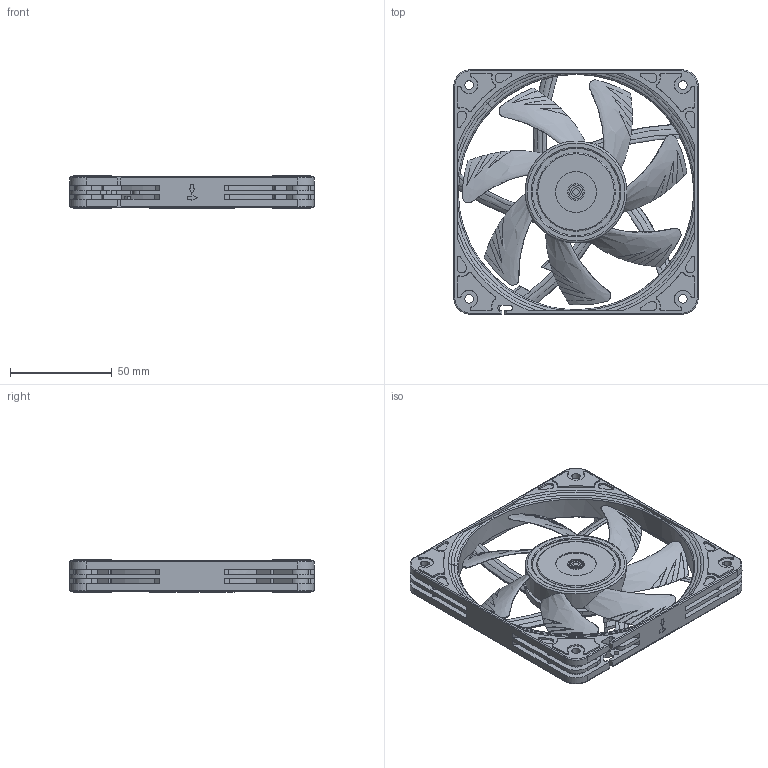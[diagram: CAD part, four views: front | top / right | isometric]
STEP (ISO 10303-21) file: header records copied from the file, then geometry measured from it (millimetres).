
FILE_DESCRIPTION(/* description */ ('140mm Desk Fan'),/* implementation_level */ '2;1');
FILE_NAME(/* name */ 'NF-A12x15_chromax_public-cad',/* time_stamp */ '2026-04-10T16:44:16+02:00',/* author */ ('Andreas'),/* organization */ ('Rascom'),/* preprocessor_version */ 'ST-DEVELOPER v18.102',/* originating_system */ 'Solid Edge',/* authorisation */ 'Unknown');
FILE_SCHEMA (('AUTOMOTIVE_DESIGN {1 0 10303 214 3 1 1}'));
Length unit declared in the file: millimetre
Products named in the file (6): NF-A12x15_chromax_public-cad; NF-A12x15_public-cad; NF-A12x15_Frame-Public; NF-A12x15_Impeller-Public; NA-AVP7; Fan-Label-D42mm-Chromax
Assembly tree (12 placements, depth 3):
  NF-A12x15_chromax_public-cad
    NF-A12x15_public-cad
      NF-A12x15_Frame-Public
      NF-A12x15_Impeller-Public
      NA-AVP7  x8
    Fan-Label-D42mm-Chromax
Bounding box: 120 x 120 x 16.2 mm (x, y, z)
Volume: 76806.2 mm3; surface area: 58604.8 mm2
Topology: 11 solids, 11 shells, 1185 faces, 3202 edges, 2075 vertices
Faces by surface type: cylinder 528, plane 418, bspline 130, torus 65, cone 44
Full cylindrical faces by diameter (mm): 3 x1, 3.01 x1, 5 x1, 6.9 x1, 8 x1, 20 x1, 38.6 x1, 42 x1, 50 x1, 115.648 x1
Entity records: 42397 total; most frequent: CARTESIAN_POINT 17092, ORIENTED_EDGE 5708, DIRECTION 4338, EDGE_CURVE 2854, VERTEX_POINT 1860, AXIS2_PLACEMENT_3D 1601, EDGE_LOOP 1152, FACE_BOUND 1152
